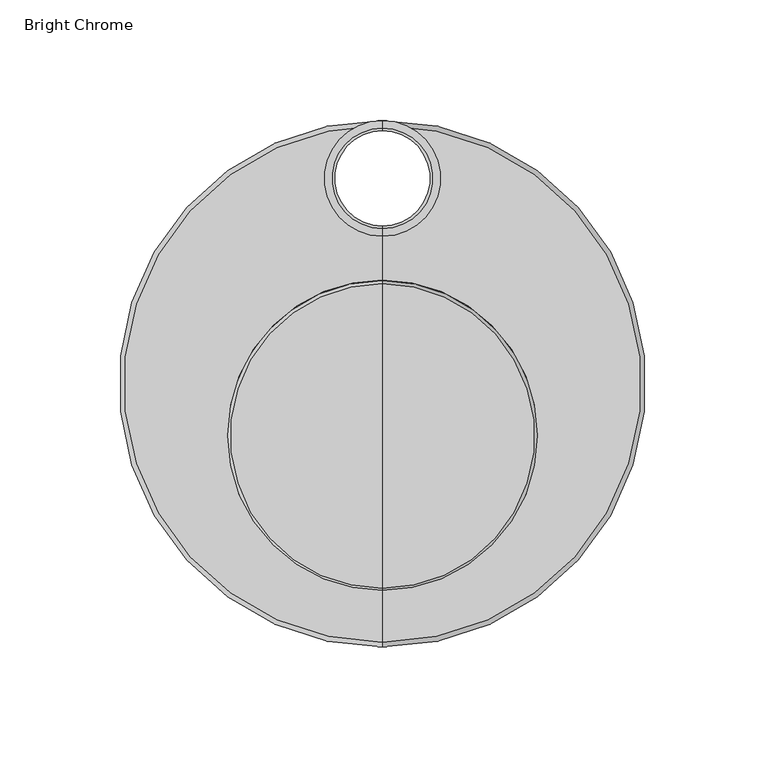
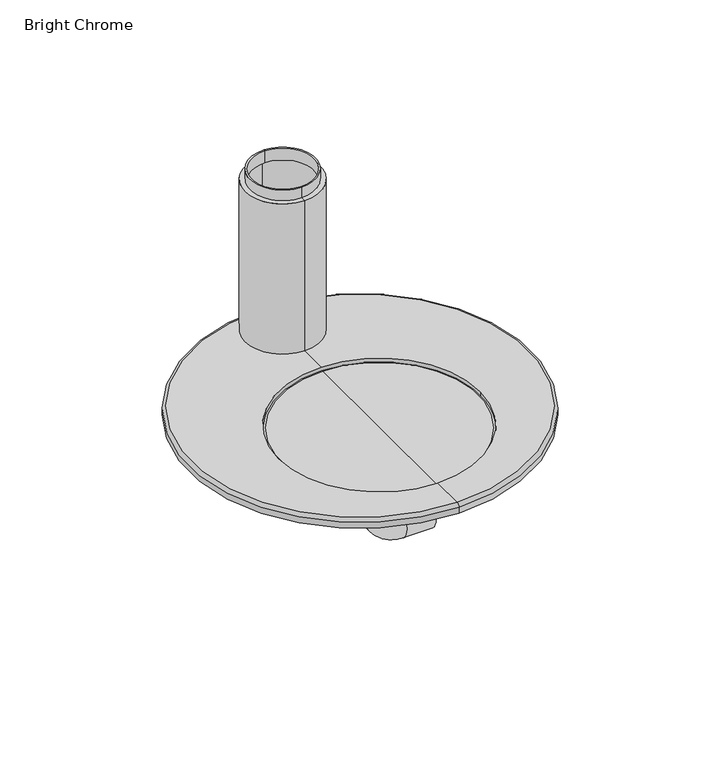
"""IFC4 building model written with IfcOpenShell, lengths in millimetres: flow terminal geometry, z_PlumFixt_Zip_Font and Tap Riser : Bright Chrome."""

from ifc_helpers import new_model, si_unit, point, frame, origin, place, context, project, spatial, polyline, circle_curve, ellipse_curve, trimmed, outline, extrude, source, transform, mapped, element, save
from ifc_brep_helpers import plane_surface, cylinder_surface, revolved_surface, advanced_brep


def bright_chrome_13082571(model_context):
    return source(origin(), model_context, "Body", "SolidModel", [
        advanced_brep(
        [(1.0, 124.2704722, 5.9754703), (1.0, 76.2295278, 5.9754703), (1.0, 76.2295278, 107.0), (1.0, 124.2704722, 107.0), (1.0, 79.4077987, 107.0), (1.0, 121.0922013, 107.0), (1.0, 79.4077987, 114.0), (1.0, 121.0922013, 114.0), (1.0, 80.4077987, 114.0), (1.0, 120.0922013, 114.0), (1.0, 80.4077987, 106.0), (1.0, 120.0922013, 106.0), (1.0, 77.2295278, 106.0), (1.0, 123.2704722, 106.0), (1.0, 77.2295278, 5.9754703), (1.0, 123.2704722, 5.9754703)],
        [
            (0, 1, circle_curve(frame((1.0, 100.25, 5.9754703), z_axis=(0.0, 0.0, 1.0), x_axis=(0.0, -1.0, 0.0)), 24.0204722)),
            (1, 2),
            (2, 3, circle_curve(frame((1.0, 100.25, 107.0), z_axis=(0.0, 0.0, -1.0), x_axis=(0.0, -1.0, 0.0)), 24.0204722)),
            (3, 0),
            (1, 0, circle_curve(frame((1.0, 100.25, 5.9754703), z_axis=(0.0, 0.0, 1.0), x_axis=(0.0, -1.0, 0.0)), 24.0204722)),
            (3, 2, circle_curve(frame((1.0, 100.25, 107.0), z_axis=(0.0, 0.0, -1.0), x_axis=(0.0, -1.0, 0.0)), 24.0204722)),
            (2, 4),
            (4, 5, circle_curve(frame((1.0, 100.25, 107.0), z_axis=(0.0, 0.0, -1.0), x_axis=(0.0, -1.0, 0.0)), 20.8422013)),
            (5, 3),
            (5, 4, circle_curve(frame((1.0, 100.25, 107.0), z_axis=(0.0, 0.0, -1.0), x_axis=(0.0, -1.0, 0.0)), 20.8422013)),
            (4, 6),
            (6, 7, circle_curve(frame((1.0, 100.25, 114.0), z_axis=(0.0, 0.0, -1.0), x_axis=(0.0, -1.0, 0.0)), 20.8422013)),
            (7, 5),
            (7, 6, circle_curve(frame((1.0, 100.25, 114.0), z_axis=(0.0, 0.0, -1.0), x_axis=(0.0, -1.0, 0.0)), 20.8422013)),
            (6, 8),
            (8, 9, circle_curve(frame((1.0, 100.25, 114.0), z_axis=(0.0, 0.0, -1.0), x_axis=(0.0, -1.0, 0.0)), 19.8422013)),
            (9, 7),
            (9, 8, circle_curve(frame((1.0, 100.25, 114.0), z_axis=(0.0, 0.0, -1.0), x_axis=(0.0, -1.0, 0.0)), 19.8422013)),
            (8, 10),
            (10, 11, circle_curve(frame((1.0, 100.25, 106.0), z_axis=(0.0, 0.0, -1.0), x_axis=(0.0, -1.0, 0.0)), 19.8422013)),
            (11, 9),
            (11, 10, circle_curve(frame((1.0, 100.25, 106.0), z_axis=(0.0, 0.0, -1.0), x_axis=(0.0, -1.0, 0.0)), 19.8422013)),
            (10, 12),
            (12, 13, circle_curve(frame((1.0, 100.25, 106.0), z_axis=(0.0, 0.0, -1.0), x_axis=(0.0, -1.0, 0.0)), 23.0204722)),
            (13, 11),
            (13, 12, circle_curve(frame((1.0, 100.25, 106.0), z_axis=(0.0, 0.0, -1.0), x_axis=(0.0, -1.0, 0.0)), 23.0204722)),
            (12, 14),
            (14, 15, circle_curve(frame((1.0, 100.25, 5.9754703), z_axis=(0.0, 0.0, -1.0), x_axis=(0.0, -1.0, 0.0)), 23.0204722)),
            (15, 13),
            (15, 14, circle_curve(frame((1.0, 100.25, 5.9754703), z_axis=(0.0, 0.0, -1.0), x_axis=(0.0, -1.0, 0.0)), 23.0204722)),
            (14, 1),
            (0, 15),
        ],
        [
            cylinder_surface(frame((1.0, 100.25, 0.1735284), z_axis=(0.0, 0.0, -1.0), x_axis=(0.0, -1.0, 0.0)), 24.0204722),
            plane_surface(frame((1.0, 100.25, 107.0), z_axis=(0.0, 0.0, 1.0), x_axis=(0.0, -1.0, 0.0))),
            cylinder_surface(frame((1.0, 100.25, 0.1735284), z_axis=(0.0, 0.0, -1.0), x_axis=(0.0, -1.0, 0.0)), 20.8422013),
            plane_surface(frame((1.0, 100.25, 114.0), z_axis=(0.0, 0.0, 1.0), x_axis=(0.0, -1.0, 0.0))),
            revolved_surface(polyline([(1.0, 80.4077987, 106.0), (1.0, 80.4077987, 114.0)]), (1.0, 100.25, 0.1735284), (0.0, 0.0, -1.0)),
            plane_surface(frame((1.0, 100.25, 106.0), z_axis=(0.0, 0.0, -1.0), x_axis=(0.0, -1.0, 0.0))),
            revolved_surface(polyline([(1.0, 77.2295278, 5.9754703), (1.0, 77.2295278, 106.0)]), (1.0, 100.25, 0.1735284), (0.0, 0.0, -1.0)),
            plane_surface(frame((1.0, 100.25, 5.9754703), z_axis=(0.0, 0.0, -1.0), x_axis=(0.0, -1.0, 0.0))),
        ],
        [
            (0, [[1, 2, 3, 4]]),
            (0, [[5, -4, 6, -2]]),
            (1, [[-3, 7, 8, 9]]),
            (1, [[-6, -9, 10, -7]]),
            (2, [[-8, 11, 12, 13]]),
            (2, [[-10, -13, 14, -11]]),
            (3, [[-12, 15, 16, 17]]),
            (3, [[-14, -17, 18, -15]]),
            (4, [[-16, 19, 20, 21]]),
            (4, [[-18, -21, 22, -19]]),
            (5, [[-20, 23, 24, 25]]),
            (5, [[-22, -25, 26, -23]]),
            (6, [[-24, 27, 28, 29]]),
            (6, [[-26, -29, 30, -27]]),
            (7, [[-28, 31, -1, 32]]),
            (7, [[-30, -32, -5, -31]]),
        ],
    ),
        advanced_brep(
        [(1.0, 122.25, 5.9736354), (1.0, -92.25, 5.9736354), (1.0, -70.83804, 5.9736354), (-63.47, -6.36804, 5.9736354), (1.0, 58.10196, 5.9736354), (1.0, 78.25, 5.9736354), (-21.0, 100.25, 5.9736354), (23.0, 100.25, 5.9736354), (65.47, -6.36804, 5.9736354), (1.0, 124.25, 3.9736354), (1.0, -94.25, 3.9736354), (1.0, 124.25, 0.0), (1.0, -94.25, 0.0), (1.0, 122.25, 0.0), (-21.0, 100.25, 0.0), (1.0, 78.25, 0.0), (1.0, 15.0, 0.0), (23.0, 100.25, 0.0), (65.47, -6.36804, 1.5304145), (-63.47, -6.36804, 1.5304145)],
        [
            (0, 1, circle_curve(frame((1.0, 15.0, 5.9736354), z_axis=(0.0, 0.0, 1.0), x_axis=(0.0, 1.0, 0.0)), 107.25)),
            (1, 2),
            (2, 3, circle_curve(frame((1.0, -6.36804, 5.9736354), z_axis=(0.0, 0.0, -1.0), x_axis=(-1.0, 0.0, 0.0)), 64.47)),
            (3, 4, circle_curve(frame((1.0, -6.36804, 5.9736354), z_axis=(0.0, 0.0, -1.0), x_axis=(-1.0, 0.0, 0.0)), 64.47)),
            (4, 5),
            (5, 6, circle_curve(frame((1.0, 100.25, 5.9736354), z_axis=(0.0, 0.0, -1.0), x_axis=(-1.0, 0.0, 0.0)), 22.0)),
            (6, 0, circle_curve(frame((1.0, 100.25, 5.9736354), z_axis=(0.0, 0.0, -1.0), x_axis=(-1.0, 0.0, 0.0)), 22.0)),
            (1, 0, circle_curve(frame((1.0, 15.0, 5.9736354), z_axis=(0.0, 0.0, 1.0), x_axis=(0.0, 1.0, 0.0)), 107.25)),
            (0, 7, circle_curve(frame((1.0, 100.25, 5.9736354), z_axis=(0.0, 0.0, -1.0), x_axis=(-1.0, 0.0, 0.0)), 22.0)),
            (7, 5, circle_curve(frame((1.0, 100.25, 5.9736354), z_axis=(0.0, 0.0, -1.0), x_axis=(-1.0, 0.0, 0.0)), 22.0)),
            (4, 8, circle_curve(frame((1.0, -6.36804, 5.9736354), z_axis=(0.0, 0.0, -1.0), x_axis=(-1.0, 0.0, 0.0)), 64.47)),
            (8, 2, circle_curve(frame((1.0, -6.36804, 5.9736354), z_axis=(0.0, 0.0, -1.0), x_axis=(-1.0, 0.0, 0.0)), 64.47)),
            (0, 9, circle_curve(frame((1.0, 122.25, 3.9736354), z_axis=(-1.0, 0.0, 0.0), x_axis=(0.0, 1.0, 0.0)), 2.0)),
            (9, 10, circle_curve(frame((1.0, 15.0, 3.9736354), z_axis=(0.0, 0.0, 1.0), x_axis=(0.0, 1.0, 0.0)), 109.25)),
            (10, 1, circle_curve(frame((1.0, -92.25, 3.9736354), z_axis=(-1.0, 0.0, 0.0), x_axis=(0.0, -1.0, 0.0)), 2.0)),
            (10, 9, circle_curve(frame((1.0, 15.0, 3.9736354), z_axis=(0.0, 0.0, 1.0), x_axis=(0.0, 1.0, 0.0)), 109.25)),
            (9, 11),
            (11, 12, circle_curve(frame((1.0, 15.0, 0.0), z_axis=(0.0, 0.0, 1.0), x_axis=(0.0, 1.0, 0.0)), 109.25)),
            (12, 10),
            (12, 11, circle_curve(frame((1.0, 15.0, 0.0), z_axis=(0.0, 0.0, 1.0), x_axis=(0.0, 1.0, 0.0)), 109.25)),
            (11, 13),
            (13, 14, circle_curve(frame((1.0, 100.25, 0.0), z_axis=(0.0, 0.0, 1.0), x_axis=(-1.0, 0.0, 0.0)), 22.0)),
            (14, 15, circle_curve(frame((1.0, 100.25, 0.0), z_axis=(0.0, 0.0, 1.0), x_axis=(-1.0, 0.0, 0.0)), 22.0)),
            (15, 16),
            (16, 12),
            (15, 17, circle_curve(frame((1.0, 100.25, 0.0), z_axis=(0.0, 0.0, 1.0), x_axis=(-1.0, 0.0, 0.0)), 22.0)),
            (17, 13, circle_curve(frame((1.0, 100.25, 0.0), z_axis=(0.0, 0.0, 1.0), x_axis=(-1.0, 0.0, 0.0)), 22.0)),
            (18, 19, circle_curve(frame((1.0, -6.36804, 1.5304145), z_axis=(0.0, 0.0, 1.0), x_axis=(-1.0, 0.0, 0.0)), 64.47)),
            (19, 18, circle_curve(frame((1.0, -6.36804, 1.5304145), z_axis=(0.0, 0.0, 1.0), x_axis=(-1.0, 0.0, 0.0)), 64.47)),
            (18, 8),
            (3, 19),
            (17, 7),
            (6, 14),
        ],
        [
            plane_surface(frame((1.0, 15.0, 5.9736354), z_axis=(0.0, 0.0, 1.0), x_axis=(0.0, 1.0, 0.0))),
            revolved_surface(trimmed(ellipse_curve(frame((1.0, 122.25, 3.9736354), z_axis=(1.0, 0.0, 0.0), x_axis=(0.0, 1.0, 0.0)), 2.0, 2.0), [point((1.0, 124.25, 3.9736354))], [point((1.0, 122.25, 5.9736354))], True, "CARTESIAN"), (1.0, 15.0, -1.0187212), (0.0, 0.0, 1.0)),
            cylinder_surface(frame((1.0, 15.0, -1.0187212), z_axis=(0.0, 0.0, 1.0), x_axis=(0.0, 1.0, 0.0)), 109.25),
            plane_surface(frame((1.0, 15.0, 0.0), z_axis=(0.0, 0.0, -1.0), x_axis=(0.0, 1.0, 0.0))),
            plane_surface(frame((-63.47, -6.36804, 1.5304145), z_axis=(0.0, 0.0, 1.0), x_axis=(0.0, 1.0, 0.0))),
            revolved_surface(polyline([(-63.47, -6.36804, 5.9736354), (-63.47, -6.36804, 1.5304145)]), (1.0, -6.36804, 1.5304145), (0.0, 0.0, 1.0)),
            revolved_surface(polyline([(-21.0, 100.25, 5.9736354), (-21.0, 100.25, 0.0)]), (1.0, 100.25, -1.8109582), (0.0, 0.0, 1.0)),
        ],
        [
            (0, [[1, 2, 3, 4, 5, 6, 7]]),
            (0, [[8, 9, 10, -5, 11, 12, -2]]),
            (1, [[-1, 13, 14, 15]]),
            (1, [[-8, -15, 16, -13]]),
            (2, [[-14, 17, 18, 19]]),
            (2, [[-16, -19, 20, -17]]),
            (3, [[-18, 21, 22, 23, 24, 25]]),
            (3, [[-20, -25, -24, 26, 27, -21]]),
            (4, [[28, 29]]),
            (5, [[-28, 30, -11, -4, 31]]),
            (5, [[-29, -31, -3, -12, -30]]),
            (6, [[32, -9, -7, 33, -22, -27]]),
            (6, [[-32, -26, -23, -33, -6, -10]]),
        ],
    ),
        advanced_brep(
        [(1.0, -69.9244631, 4.249674), (1.0, 56.520588, 4.249674), (1.0, 56.520588, 1.749674), (1.0, -69.9244631, 1.749674), (1.0, -6.7019376, 1.749674), (1.0, -6.7019376, 4.249674)],
        [
            (0, 1, circle_curve(frame((1.0, -6.7019376, 4.249674), z_axis=(0.0, 0.0, -1.0), x_axis=(0.0, 1.0, 0.0)), 63.2225255)),
            (1, 2, circle_curve(frame((1.0, 56.520588, 2.999674), z_axis=(-1.0, 0.0, 0.0), x_axis=(0.0, 1.0, 0.0)), 1.25)),
            (2, 3, circle_curve(frame((1.0, -6.7019376, 1.749674), z_axis=(0.0, 0.0, 1.0), x_axis=(0.0, 1.0, 0.0)), 63.2225255)),
            (3, 0, circle_curve(frame((1.0, -69.9244631, 2.999674), z_axis=(-1.0, 0.0, 0.0), x_axis=(0.0, -1.0, 0.0)), 1.25)),
            (1, 0, circle_curve(frame((1.0, -6.7019376, 4.249674), z_axis=(0.0, 0.0, -1.0), x_axis=(0.0, 1.0, 0.0)), 63.2225255)),
            (3, 2, circle_curve(frame((1.0, -6.7019376, 1.749674), z_axis=(0.0, 0.0, 1.0), x_axis=(0.0, 1.0, 0.0)), 63.2225255)),
            (2, 4),
            (4, 3),
            (5, 1),
            (0, 5),
        ],
        [
            revolved_surface(trimmed(ellipse_curve(frame((1.0, 56.520588, 2.999674), z_axis=(1.0, 0.0, 0.0), x_axis=(0.0, 1.0, 0.0)), 1.25, 1.25), [point((1.0, 56.520588, 1.749674))], [point((1.0, 56.520588, 4.249674))], True, "CARTESIAN"), (1.0, -6.7019376, 0.0), (0.0, 0.0, 1.0)),
            plane_surface(frame((1.0, -6.7019376, 1.749674), z_axis=(0.0, 0.0, -1.0), x_axis=(0.0, 1.0, 0.0))),
            plane_surface(frame((1.0, -6.7019376, 4.249674), z_axis=(0.0, 0.0, 1.0), x_axis=(0.0, 1.0, 0.0))),
        ],
        [
            (0, [[1, 2, 3, 4]]),
            (0, [[5, -4, 6, -2]]),
            (1, [[-3, 7, 8]]),
            (1, [[-6, -8, -7]]),
            (2, [[9, -1, 10]]),
            (2, [[-10, -5, -9]]),
        ],
    ),
        advanced_brep(
        [(1.0, 17.6082756, -9.3040084), (1.0, -27.6082756, -9.3040084), (1.0, -56.6303223, 0.0), (1.0, 46.6303223, 0.0), (1.0, 16.5094946, -10.3549967), (1.0, -26.5094946, -10.3549967), (1.0, 16.3191004, -11.4347761), (1.0, -26.3191004, -11.4347761), (1.0, 15.3746862, -12.2272337), (1.0, -25.3746862, -12.2272337), (1.0, -5.0, -12.2272337), (1.0, -5.0, 0.0)],
        [
            (0, 1, circle_curve(frame((1.0, -5.0, -9.3040084), z_axis=(0.0, 0.0, 1.0), x_axis=(0.0, -1.0, 0.0)), 22.6082756)),
            (1, 2, circle_curve(frame((1.0, -16.5771103, 75.0218914), z_axis=(-1.0, 0.0, 0.0), x_axis=(0.0, 1.0, 0.0)), 85.0443648)),
            (2, 3, circle_curve(frame((1.0, -5.0, 0.0), z_axis=(0.0, 0.0, -1.0), x_axis=(0.0, -1.0, 0.0)), 51.6303223)),
            (3, 0, circle_curve(frame((1.0, 6.5771103, 75.0218914), z_axis=(-1.0, 0.0, 0.0), x_axis=(0.0, -1.0, 0.0)), 85.0443648)),
            (1, 0, circle_curve(frame((1.0, -5.0, -9.3040084), z_axis=(0.0, 0.0, 1.0), x_axis=(0.0, -1.0, 0.0)), 22.6082756)),
            (3, 2, circle_curve(frame((1.0, -5.0, 0.0), z_axis=(0.0, 0.0, -1.0), x_axis=(0.0, -1.0, 0.0)), 51.6303223)),
            (4, 5, circle_curve(frame((1.0, -5.0, -10.3549967), z_axis=(0.0, 0.0, 1.0), x_axis=(0.0, -1.0, 0.0)), 21.5094946)),
            (5, 1, circle_curve(frame((1.0, -27.774951, -10.5781308), z_axis=(1.0, 0.0, 0.0), x_axis=(0.0, 1.0, 0.0)), 1.2849781)),
            (0, 4, circle_curve(frame((1.0, 17.774951, -10.5781308), z_axis=(1.0, 0.0, 0.0), x_axis=(0.0, -1.0, 0.0)), 1.2849781)),
            (5, 4, circle_curve(frame((1.0, -5.0, -10.3549967), z_axis=(0.0, 0.0, 1.0), x_axis=(0.0, -1.0, 0.0)), 21.5094946)),
            (6, 7, circle_curve(frame((1.0, -5.0, -11.4347761), z_axis=(0.0, 0.0, 1.0), x_axis=(0.0, -1.0, 0.0)), 21.3191004)),
            (7, 5),
            (4, 6),
            (7, 6, circle_curve(frame((1.0, -5.0, -11.4347761), z_axis=(0.0, 0.0, 1.0), x_axis=(0.0, -1.0, 0.0)), 21.3191004)),
            (8, 9, circle_curve(frame((1.0, -5.0, -12.2272337), z_axis=(0.0, 0.0, 1.0), x_axis=(0.0, -1.0, 0.0)), 20.3746862)),
            (9, 7, circle_curve(frame((1.0, -25.3746862, -11.2682504), z_axis=(-1.0, 0.0, 0.0), x_axis=(0.0, 1.0, 0.0)), 0.9589833)),
            (6, 8, circle_curve(frame((1.0, 15.3746862, -11.2682504), z_axis=(-1.0, 0.0, 0.0), x_axis=(0.0, -1.0, 0.0)), 0.9589833)),
            (9, 8, circle_curve(frame((1.0, -5.0, -12.2272337), z_axis=(0.0, 0.0, 1.0), x_axis=(0.0, -1.0, 0.0)), 20.3746862)),
            (10, 9),
            (8, 10),
            (2, 11),
            (11, 3),
        ],
        [
            revolved_surface(trimmed(ellipse_curve(frame((1.0, -16.5771103, 75.0218914), z_axis=(1.0, 0.0, 0.0), x_axis=(0.0, 1.0, 0.0)), 85.0443648, 85.0443648), [point((1.0, -56.6303223, 0.0))], [point((1.0, -27.6082756, -9.3040084))], True, "CARTESIAN"), (1.0, -5.0, 0.0), (0.0, 0.0, -1.0)),
            revolved_surface(trimmed(ellipse_curve(frame((1.0, -27.774951, -10.5781308), z_axis=(-1.0, 0.0, 0.0), x_axis=(0.0, 1.0, 0.0)), 1.2849781, 1.2849781), [point((1.0, -27.6082756, -9.3040084))], [point((1.0, -26.5094946, -10.3549967))], True, "CARTESIAN"), (1.0, -5.0, 0.0), (0.0, 0.0, -1.0)),
            revolved_surface(polyline([(1.0, -26.5094946, -10.3549967), (1.0, -26.3191004, -11.4347761)]), (1.0, -5.0, 0.0), (0.0, 0.0, -1.0)),
            revolved_surface(trimmed(ellipse_curve(frame((1.0, -25.3746862, -11.2682504), z_axis=(1.0, 0.0, 0.0), x_axis=(0.0, 1.0, 0.0)), 0.9589833, 0.9589833), [point((1.0, -26.3191004, -11.4347761))], [point((1.0, -25.3746862, -12.2272337))], True, "CARTESIAN"), (1.0, -5.0, 0.0), (0.0, 0.0, -1.0)),
            plane_surface(frame((1.0, -5.0, -12.2272337), z_axis=(0.0, 0.0, -1.0), x_axis=(0.0, -1.0, 0.0))),
            plane_surface(frame((1.0, -5.0, 0.0), z_axis=(0.0, 0.0, 1.0), x_axis=(0.0, -1.0, 0.0))),
        ],
        [
            (0, [[1, 2, 3, 4]]),
            (0, [[5, -4, 6, -2]]),
            (1, [[7, 8, -1, 9]]),
            (1, [[10, -9, -5, -8]]),
            (2, [[11, 12, -7, 13]]),
            (2, [[14, -13, -10, -12]]),
            (3, [[15, 16, -11, 17]]),
            (3, [[18, -17, -14, -16]]),
            (4, [[19, -15, 20]]),
            (4, [[-20, -18, -19]]),
            (5, [[-3, 21, 22]]),
            (5, [[-6, -22, -21]]),
        ],
    ),
        extrude(outline(polyline([(-8.0700199, 10.0093191), (9.9254696, 10.0093191), (19.0513346, -5.5057892), (9.9254696, -21.0208976), (-8.0700199, -21.0208976), (-17.1958849, -5.5057892), (-8.0700199, 10.0093191)])), frame((0.0, 0.0, -21.18049), z_axis=(0.0, 0.0, 1.0), x_axis=(1.0, 0.0, 0.0)), (0.0, 0.0, 1.0), 9.0),
        advanced_brep(
        [(31.1519186, -5.8906809, -72.6140161), (31.1519186, -5.8906809, -51.1140161), (12.9277249, -5.8906809, -72.6140161), (12.9277249, -5.8906809, -51.1140161), (11.6777249, -5.8906809, -49.8640161), (-9.8222751, -5.8906809, -49.8640161), (-9.8222751, -5.8906809, -21.18049), (11.6777249, -5.8906809, -21.18049)],
        [
            (0, 1, circle_curve(frame((31.1519186, -5.8906809, -61.8640161), z_axis=(1.0, 0.0, 0.0), x_axis=(0.0, 0.0, 1.0)), 10.75)),
            (1, 0, circle_curve(frame((31.1519186, -5.8906809, -61.8640161), z_axis=(1.0, 0.0, 0.0), x_axis=(0.0, 0.0, 1.0)), 10.75)),
            (0, 2),
            (2, 3, circle_curve(frame((12.9277249, -5.8906809, -61.8640161), z_axis=(1.0, 0.0, 0.0), x_axis=(0.0, 0.0, 1.0)), 10.75)),
            (3, 1),
            (3, 2, circle_curve(frame((12.9277249, -5.8906809, -61.8640161), z_axis=(1.0, 0.0, 0.0), x_axis=(0.0, 0.0, 1.0)), 10.75)),
            (4, 3, circle_curve(frame((12.9277249, -5.8906809, -49.8640161), z_axis=(0.0, -1.0, 0.0), x_axis=(0.0, 0.0, -1.0)), 1.25)),
            (2, 5, circle_curve(frame((12.9277249, -5.8906809, -49.8640161), z_axis=(0.0, 1.0, 0.0), x_axis=(0.0, 0.0, -1.0)), 22.75)),
            (5, 4, circle_curve(frame((0.9277249, -5.8906809, -49.8640161), z_axis=(0.0, 0.0, -1.0), x_axis=(1.0, 0.0, 0.0)), 10.75)),
            (4, 5, circle_curve(frame((0.9277249, -5.8906809, -49.8640161), z_axis=(0.0, 0.0, -1.0), x_axis=(1.0, 0.0, 0.0)), 10.75)),
            (6, 7, circle_curve(frame((0.9277249, -5.8906809, -21.18049), z_axis=(0.0, 0.0, 1.0), x_axis=(1.0, 0.0, 0.0)), 10.75)),
            (7, 6, circle_curve(frame((0.9277249, -5.8906809, -21.18049), z_axis=(0.0, 0.0, 1.0), x_axis=(1.0, 0.0, 0.0)), 10.75)),
            (5, 6),
            (7, 4),
        ],
        [
            plane_surface(frame((31.1519186, 15.0, -61.8640161), z_axis=(1.0, 0.0, 0.0), x_axis=(0.0, 1.0, 0.0))),
            cylinder_surface(frame((31.1519186, -5.8906809, -61.8640161), z_axis=(1.0, 0.0, 0.0), x_axis=(0.0, 0.0, 1.0)), 10.75),
            revolved_surface(trimmed(ellipse_curve(frame((12.9277249, -5.8906809, -61.8640161), z_axis=(1.0, 0.0, 0.0), x_axis=(0.0, 0.0, 1.0)), 10.75, 10.75), [point((12.9277249, -5.8906809, -72.6140161))], [point((12.9277249, -5.8906809, -51.1140161))], True, "CARTESIAN"), (12.9277249, 15.0, -49.8640161), (0.0, 1.0, 0.0)),
            revolved_surface(trimmed(ellipse_curve(frame((12.9277249, -5.8906809, -61.8640161), z_axis=(1.0, 0.0, 0.0), x_axis=(0.0, 0.0, 1.0)), 10.75, 10.75), [point((12.9277249, -5.8906809, -51.1140161))], [point((12.9277249, -5.8906809, -72.6140161))], True, "CARTESIAN"), (12.9277249, 15.0, -49.8640161), (0.0, 1.0, 0.0)),
            plane_surface(frame((0.9277249, 15.0, -21.18049), z_axis=(0.0, 0.0, 1.0), x_axis=(0.0, 1.0, 0.0))),
            cylinder_surface(frame((0.9277249, -5.8906809, -49.8640161), z_axis=(0.0, 0.0, -1.0), x_axis=(1.0, 0.0, 0.0)), 10.75),
        ],
        [
            (0, [[1, 2]]),
            (1, [[-1, 3, 4, 5]]),
            (1, [[-2, -5, 6, -3]]),
            (2, [[7, -4, 8, 9]]),
            (3, [[-8, -6, -7, 10]]),
            (4, [[11, 12]]),
            (5, [[-9, 13, -12, 14]]),
            (5, [[-10, -14, -11, -13]]),
        ],
    ),
    ])


if __name__ == "__main__":
    model = new_model("IFC4")
    model_context = context("Model", 3, world=origin())
    ifc_project = project(units=[si_unit("LENGTHUNIT", "METRE", prefix="MILLI")], contexts=[model_context])
    site = spatial("IfcSite", under=ifc_project)
    building = spatial("IfcBuilding", under=site)
    placement = place(None, origin())
    bright_chrome_shape = bright_chrome_13082571(model_context)
    element("IfcFlowTerminal", 1, ObjectType="z_PlumFixt_Zip_Font and Tap Riser : Bright Chrome", at=placement, inside=building, context=model_context, shape_type="MappedRepresentation", body=[
        mapped(bright_chrome_shape, transform((0.0, 0.0, 0.0), x_axis=(1.0, 0.0, 0.0), y_axis=(0.0, 1.0, 0.0), z_axis=(0.0, 0.0, 1.0))),
    ])
    save(model, "model.ifc")
